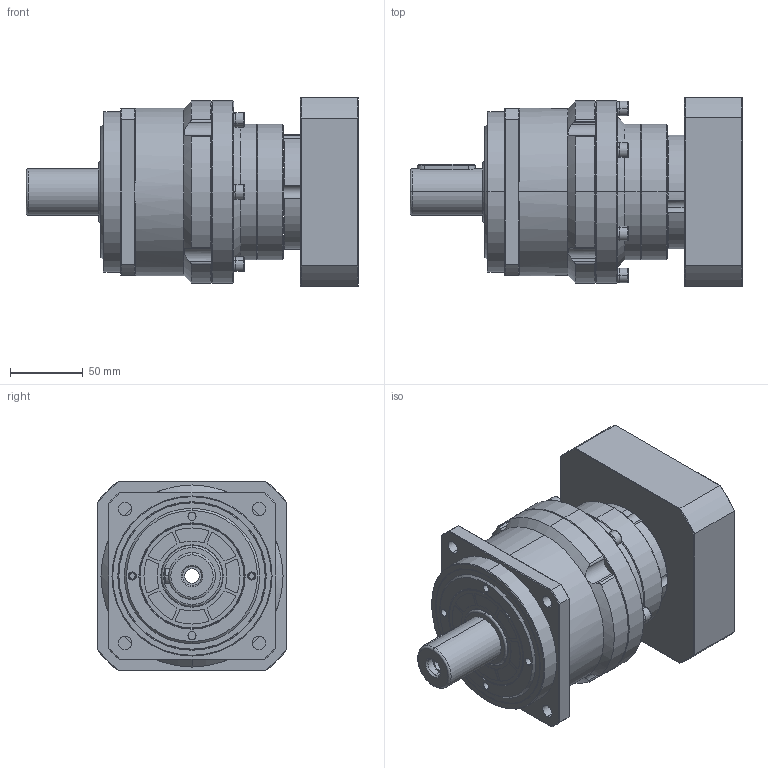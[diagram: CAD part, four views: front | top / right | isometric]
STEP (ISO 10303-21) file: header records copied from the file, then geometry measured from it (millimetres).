
FILE_DESCRIPTION (( 'STEP AP203' ), '1' );
FILE_NAME ('KS115-10X5-110-24-60-M8-145.STEP', '2020-08-12T01:06:27', ( '微软用户' ), ( '微软中国' ), 'SwSTEP 2.0', 'SolidWorks 2008', '' );
FILE_SCHEMA (( 'CONFIG_CONTROL_DESIGN' ));
Length unit declared in the file: millimetre
Products named in the file (1): KS115-10X5-110-24-60-M8-145
Bounding box: 228 x 130 x 130 mm (x, y, z)
Surface area: 162834.5 mm2 (no closed solid volume)
Topology: 0 solids, 37 shells, 513 faces, 1599 edges, 1090 vertices
Faces by surface type: plane 196, cylinder 192, cone 91, torus 34
Entity records: 18451 total; most frequent: CARTESIAN_POINT 4125, DIRECTION 3194, ORIENTED_EDGE 2573, EDGE_CURVE 1587, AXIS2_PLACEMENT_3D 1245, VERTEX_POINT 1090, CIRCLE 731, LINE 704
